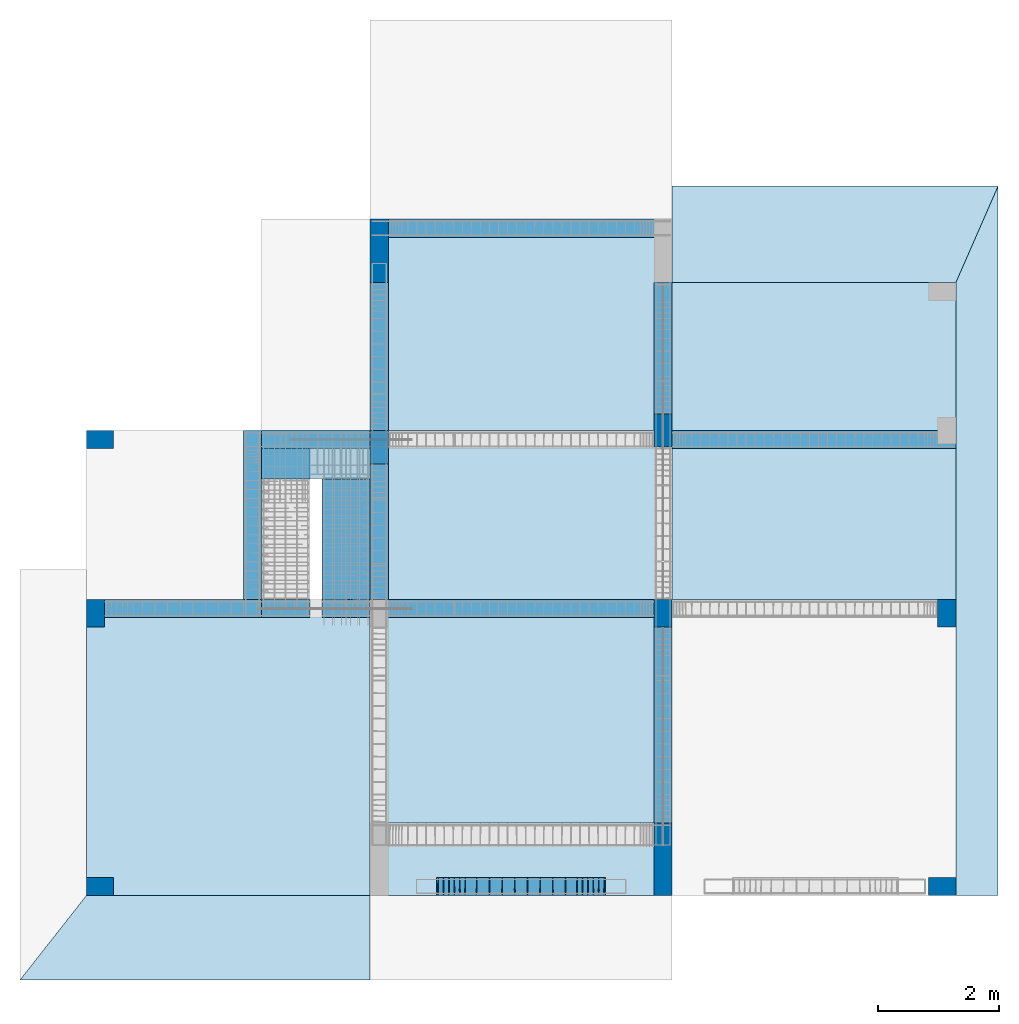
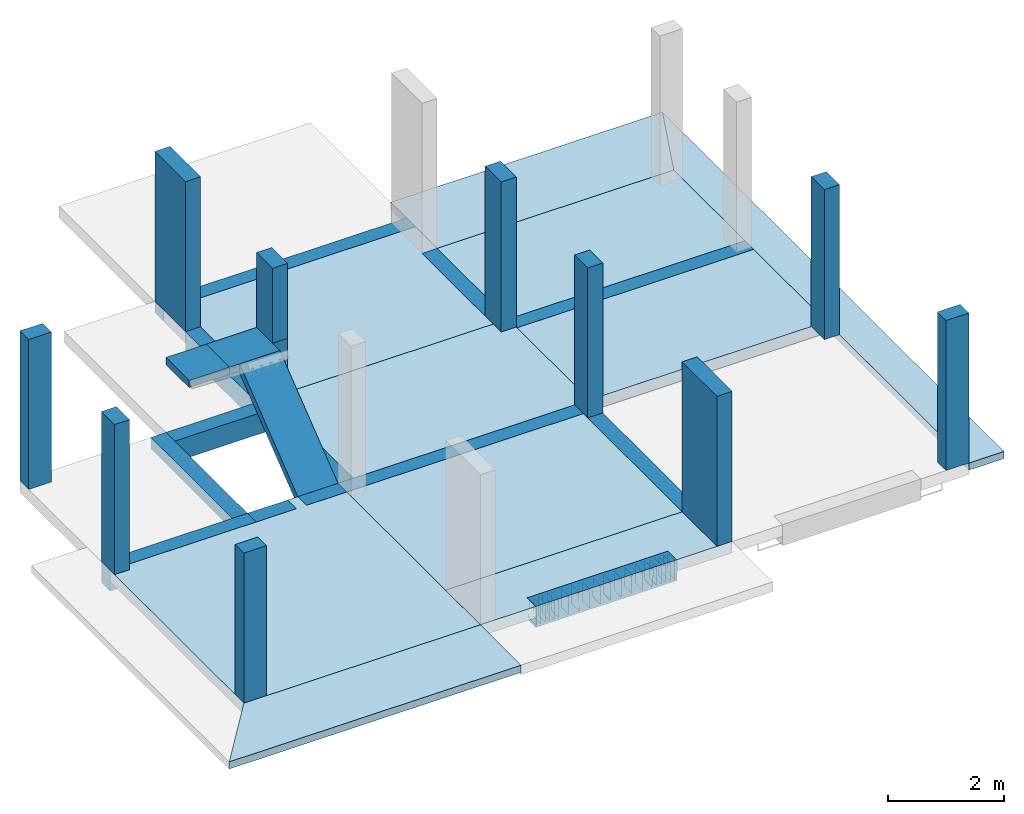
# One storey, part 1 of 5: 15 beams, 10 slabs, 9 columns, 3 walls, 1 reinforcing bar.
"""IFC4 building model written with IfcOpenShell, lengths in metres."""

from ifc_helpers import new_model, entity, si_unit, frame, frame_2d, origin_with_axes, origin_2d_with_axis, place, context, project, spatial, polyline, rectangle, outline, extrude, faceted_brep, source, transform, mapped, material, layer, layer_set, layer_usage, material_profile, profile_set, profile_usage, type_object, element, save


model = new_model("IFC4")

# Units and contexts
model_context = context("Model", 3, precision=1e-05, world=origin_with_axes())
ifc_project = project(units=[si_unit("LENGTHUNIT", "METRE"), si_unit("AREAUNIT", "SQUARE_METRE"), si_unit("VOLUMEUNIT", "CUBIC_METRE"), si_unit("MASSUNIT", "GRAM", prefix="KILO"), si_unit("TIMEUNIT", "SECOND"), si_unit("PLANEANGLEUNIT", "RADIAN"), si_unit("SOLIDANGLEUNIT", "STERADIAN"), si_unit("THERMODYNAMICTEMPERATUREUNIT", "DEGREE_CELSIUS")], contexts=[model_context])

# Site, building, storey
placement_1 = place(None, origin_with_axes())
site = spatial("IfcSite", under=ifc_project, at=placement_1, Name="Italia", CompositionType="ELEMENT")
building = spatial("IfcBuilding", under=site, at=placement_1, Name="Bifamiliare", CompositionType="ELEMENT")
storey_placement = place(None, frame((0.0, 0.0, 2.799999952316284), z_axis=(0.0, 0.0, 1.0), x_axis=(1.0, 0.0, 0.0)))
storey = spatial("IfcBuildingStorey", under=building, at=storey_placement, Name="Storey 1", CompositionType="ELEMENT", Elevation=2.799999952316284)

# Columns
ifc_material_1 = material(Name="Calcestruzzo", Category="Calcestruzzo")
ifc_material_profile = material_profile(ifc_material_1, rectangle(XDim=0.3, YDim=0.55, at=frame_2d((0.0, 0.0), x_axis=(0.0, 1.0))), Name="9 Pil 55x30")
ifc_profile_set = profile_set([ifc_material_profile])
ifc_profile_usage_1 = profile_usage(ifc_profile_set, cardinal=3)
column_type_1 = type_object("IfcColumnType", Name="9 Pil 55x30", PredefinedType="COLUMN", material=ifc_profile_usage_1)
placement_2 = place(placement_1, origin_with_axes())
column_1_placement = place(placement_2, origin_with_axes())
element("IfcColumn", 1, at=column_1_placement, inside=storey, type_object=column_type_1, Name="8", context=model_context, shape_type="SweptSolid", body=[
    extrude(rectangle(XDim=0.3, YDim=0.55, at=frame_2d((0.0, 0.0), x_axis=(0.0, 1.0))), frame((5.95, 8.825, 2.8), z_axis=(0.0, 0.0, 1.0), x_axis=(0.0, 1.0, 0.0)), (0.0, 0.0, 1.0), 1.575),
])
ifc_profile_usage_2 = profile_usage(ifc_profile_set, cardinal=8)
column_type_2 = type_object("IfcColumnType", Name="9 Pil 55x30", PredefinedType="COLUMN", material=ifc_profile_usage_2)
column_2_placement = place(placement_2, origin_with_axes())
element("IfcColumn", 2, at=column_2_placement, inside=storey, type_object=column_type_2, Name="9", context=model_context, shape_type="SweptSolid", body=[
    extrude(rectangle(XDim=0.3, YDim=0.55, at=frame_2d((0.0, 0.0), x_axis=(0.0, 1.0))), frame((10.65, 9.1, 2.8), z_axis=(0.0, 0.0, 1.0), x_axis=(0.0, 1.0, 0.0)), (0.0, 0.0, 1.0), 3.15),
])
ifc_profile_usage_3 = profile_usage(ifc_profile_set, cardinal=1)
column_type_3 = type_object("IfcColumnType", Name="8 Pil 30x45", PredefinedType="COLUMN", material=ifc_profile_usage_3)
column_3_placement = place(placement_2, origin_with_axes())
element("IfcColumn", 3, at=column_3_placement, inside=storey, type_object=column_type_3, Name="1", context=model_context, shape_type="SweptSolid", body=[
    extrude(rectangle(XDim=0.3, YDim=0.45, at=origin_2d_with_axis()), frame((1.325, 1.55, 2.8), z_axis=(0.0, 0.0, 1.0), x_axis=(0.0, 1.0, 0.0)), (0.0, 0.0, 1.0), 3.15),
])
ifc_profile_usage_4 = profile_usage(ifc_profile_set, cardinal=3)
column_type_4 = type_object("IfcColumnType", Name="8 Pil 30x45", PredefinedType="COLUMN", material=ifc_profile_usage_4)
column_4_placement = place(placement_2, origin_with_axes())
element("IfcColumn", 4, at=column_4_placement, inside=storey, type_object=column_type_4, Name="7", context=model_context, shape_type="SweptSolid", body=[
    extrude(rectangle(XDim=0.3, YDim=0.45, at=origin_2d_with_axis()), frame((1.325, 8.95, 2.8), z_axis=(0.0, 0.0, 1.0), x_axis=(0.0, 1.0, 0.0)), (0.0, 0.0, 1.0), 3.15),
])
ifc_profile_usage_5 = profile_usage(ifc_profile_set, cardinal=7)
column_type_5 = type_object("IfcColumnType", Name="8 Pil 30x45", PredefinedType="COLUMN", material=ifc_profile_usage_5)
column_5_placement = place(placement_2, origin_with_axes())
element("IfcColumn", 5, at=column_5_placement, inside=storey, type_object=column_type_5, Name="2", context=model_context, shape_type="SweptSolid", body=[
    extrude(rectangle(XDim=0.3, YDim=0.45, at=origin_2d_with_axis()), frame((15.275, 1.55, 2.8), z_axis=(0.0, 0.0, 1.0), x_axis=(0.0, 1.0, 0.0)), (0.0, 0.0, 1.0), 3.15),
])
ifc_profile_usage_6 = profile_usage(ifc_profile_set, cardinal=3)
column_type_6 = type_object("IfcColumnType", Name="7 Pil 45x30", PredefinedType="COLUMN", material=ifc_profile_usage_6)
column_6_placement = place(placement_2, origin_with_axes())
element("IfcColumn", 6, at=column_6_placement, inside=storey, type_object=column_type_6, Name="3", context=model_context, shape_type="SweptSolid", body=[
    extrude(rectangle(XDim=0.3, YDim=0.45, at=frame_2d((0.0, 0.0), x_axis=(0.0, 1.0))), frame((1.25, 6.075, 2.8), z_axis=(0.0, 0.0, 1.0), x_axis=(0.0, 1.0, 0.0)), (0.0, 0.0, 1.0), 3.15),
])
ifc_profile_usage_7 = profile_usage(ifc_profile_set, cardinal=9)
column_type_7 = type_object("IfcColumnType", Name="7 Pil 45x30", PredefinedType="COLUMN", material=ifc_profile_usage_7)
column_7_placement = place(placement_2, origin_with_axes())
element("IfcColumn", 7, at=column_7_placement, inside=storey, type_object=column_type_7, Name="6", context=model_context, shape_type="SweptSolid", body=[
    extrude(rectangle(XDim=0.3, YDim=0.45, at=frame_2d((0.0, 0.0), x_axis=(0.0, 1.0))), frame((15.35, 6.075, 2.8), z_axis=(0.0, 0.0, 1.0), x_axis=(0.0, 1.0, 0.0)), (0.0, 0.0, 1.0), 3.15),
])
ifc_profile_usage_8 = profile_usage(ifc_profile_set, cardinal=9)
column_type_8 = type_object("IfcColumnType", Name="7 Pil 45x30", PredefinedType="COLUMN", material=ifc_profile_usage_8)
column_8_placement = place(placement_2, origin_with_axes())
element("IfcColumn", 8, at=column_8_placement, inside=storey, type_object=column_type_8, Name="5", context=model_context, shape_type="SweptSolid", body=[
    extrude(rectangle(XDim=0.3, YDim=0.45, at=frame_2d((0.0, 0.0), x_axis=(0.0, 1.0))), frame((10.65, 6.075, 2.8), z_axis=(0.0, 0.0, 1.0), x_axis=(0.0, 1.0, 0.0)), (0.0, 0.0, 1.0), 3.15),
])
ifc_profile_usage_9 = profile_usage(ifc_profile_set, cardinal=3)
column_type_9 = type_object("IfcColumnType", Name="9 Pil 55x30", PredefinedType="COLUMN", material=ifc_profile_usage_9)
column_9_placement = place(placement_2, origin_with_axes())
element("IfcColumn", 9, at=column_9_placement, inside=storey, type_object=column_type_9, Name="8", context=model_context, shape_type="SweptSolid", body=[
    extrude(rectangle(XDim=0.3, YDim=0.55, at=frame_2d((0.0, 0.0), x_axis=(0.0, 1.0))), frame((5.95, 8.825, 4.375), z_axis=(0.0, 0.0, 1.0), x_axis=(0.0, 1.0, 0.0)), (0.0, 0.0, 1.0), 1.575),
])

# Beams
ifc_profile_usage_10 = profile_usage(ifc_profile_set, cardinal=1)
beam_type_1 = type_object("IfcBeamType", Name="3 Tr 30x44", PredefinedType="BEAM", material=ifc_profile_usage_10)
beam_1_placement = place(placement_2, origin_with_axes())
element("IfcBeam", 10, at=beam_1_placement, inside=storey, type_object=beam_type_1, Name="122", context=model_context, shape_type="SweptSolid", body=[
    extrude(rectangle(XDim=0.3, YDim=0.44, at=origin_2d_with_axis()), frame((5.95, 11.55, 2.58), z_axis=(0.0, -1.0, 0.0), x_axis=(1.0, 0.0, 0.0)), (0.0, 0.0, 1.0), 2.45),
])
ifc_profile_usage_11 = profile_usage(ifc_profile_set, cardinal=1)
beam_type_2 = type_object("IfcBeamType", Name="3 Tr 30x44", PredefinedType="BEAM", material=ifc_profile_usage_11)
beam_2_placement = place(placement_2, origin_with_axes())
element("IfcBeam", 11, at=beam_2_placement, inside=storey, type_object=beam_type_2, Name="101", context=model_context, shape_type="SweptSolid", body=[
    extrude(rectangle(XDim=0.3, YDim=0.44, at=origin_2d_with_axis()), frame((6.9, 1.55, 2.58), z_axis=(1.0, 0.0, 0.0), x_axis=(0.0, 1.0, 0.0)), (0.0, 0.0, 1.0), 2.8),
])
ifc_profile_usage_12 = profile_usage(ifc_profile_set, cardinal=1)
beam_type_3 = type_object("IfcBeamType", Name="3 Tr 30x44", PredefinedType="BEAM", material=ifc_profile_usage_12)
beam_3_placement = place(placement_2, origin_with_axes())
element("IfcBeam", 12, at=beam_3_placement, inside=storey, type_object=beam_type_3, Name="110", context=model_context, shape_type="SweptSolid", body=[
    extrude(rectangle(XDim=0.3, YDim=0.44, at=origin_2d_with_axis()), frame((5.8, 8.95, 2.58), z_axis=(-1.0, 0.0, 0.0), x_axis=(0.0, -1.0, 0.0)), (0.0, 0.0, 1.0), 1.8),
])
ifc_profile_usage_13 = profile_usage(ifc_profile_set, cardinal=1)
beam_type_4 = type_object("IfcBeamType", Name="3 Tr 30x44", PredefinedType="BEAM", material=ifc_profile_usage_13)
beam_4_placement = place(placement_2, origin_with_axes())
element("IfcBeam", 13, at=beam_4_placement, inside=storey, type_object=beam_type_4, Name="123", context=model_context, shape_type="SweptSolid", body=[
    extrude(rectangle(XDim=0.3, YDim=0.44, at=origin_2d_with_axis()), frame((10.65, 2.6, 2.58), z_axis=(0.0, 1.0, 0.0), x_axis=(-1.0, 0.0, 0.0)), (0.0, 0.0, 1.0), 3.7),
])
ifc_profile_usage_14 = profile_usage(ifc_profile_set, cardinal=1)
beam_type_5 = type_object("IfcBeamType", Name="3 Tr 30x44", PredefinedType="BEAM", material=ifc_profile_usage_14)
beam_5_placement = place(placement_2, origin_with_axes())
element("IfcBeam", 14, at=beam_5_placement, inside=storey, type_object=beam_type_5, Name="123", context=model_context, shape_type="SweptSolid", body=[
    extrude(rectangle(XDim=0.3, YDim=0.44, at=origin_2d_with_axis()), frame((10.65, 9.1, 2.58), z_axis=(0.0, 1.0, 0.0), x_axis=(-1.0, 0.0, 0.0)), (0.0, 0.0, 1.0), 2.45),
])
ifc_profile_usage_15 = profile_usage(ifc_profile_set, cardinal=1)
beam_type_6 = type_object("IfcBeamType", Name="3 Tr 30x44", PredefinedType="BEAM", material=ifc_profile_usage_15)
beam_6_placement = place(placement_2, origin_with_axes())
element("IfcBeam", 15, at=beam_6_placement, inside=storey, type_object=beam_type_6, Name="122", context=model_context, shape_type="SweptSolid", body=[
    extrude(rectangle(XDim=0.3, YDim=0.44, at=origin_2d_with_axis()), frame((5.95, 9.1, 2.58), z_axis=(0.0, -1.0, 0.0), x_axis=(1.0, 0.0, 0.0)), (0.0, 0.0, 1.0), 2.8),
])
ifc_profile_usage_16 = profile_usage(ifc_profile_set, cardinal=1)
beam_type_7 = type_object("IfcBeamType", Name="3 Tr 30x44", PredefinedType="BEAM", material=ifc_profile_usage_16)
beam_7_placement = place(placement_2, origin_with_axes())
element("IfcBeam", 16, at=beam_7_placement, inside=storey, type_object=beam_type_7, Name="106", context=model_context, shape_type="SweptSolid", body=[
    extrude(rectangle(XDim=0.3, YDim=0.44, at=origin_2d_with_axis()), frame((4.0, 6.15, 2.58), z_axis=(-1.0, 0.0, 0.0), x_axis=(0.0, -1.0, 0.0)), (0.0, 0.0, 1.0), 2.9),
])
ifc_profile_usage_17 = profile_usage(ifc_profile_set, cardinal=1)
beam_type_8 = type_object("IfcBeamType", Name="1 Tr 30x24", PredefinedType="BEAM", material=ifc_profile_usage_17)
beam_8_placement = place(placement_2, origin_with_axes())
element("IfcBeam", 17, at=beam_8_placement, inside=storey, type_object=beam_type_8, Name="115", context=model_context, shape_type="SweptSolid", body=[
    extrude(rectangle(XDim=0.24, YDim=0.3, at=frame_2d((0.0, 0.0), x_axis=(0.0, 1.0))), frame((10.8, 12.45, 2.68), z_axis=(-1.0, 0.0, 0.0), x_axis=(0.0, -1.0, 0.0)), (0.0, 0.0, 1.0), 5.0),
])
ifc_profile_usage_18 = profile_usage(ifc_profile_set, cardinal=1)
beam_type_9 = type_object("IfcBeamType", Name="1 Tr 30x24", PredefinedType="BEAM", material=ifc_profile_usage_18)
beam_9_placement = place(placement_2, origin_with_axes())
element("IfcBeam", 18, at=beam_9_placement, inside=storey, type_object=beam_type_9, Name="106", context=model_context, shape_type="SweptSolid", body=[
    extrude(rectangle(XDim=0.24, YDim=0.3, at=frame_2d((0.0, 0.0), x_axis=(0.0, 1.0))), frame((10.8, 6.15, 2.68), z_axis=(-1.0, 0.0, 0.0), x_axis=(0.0, -1.0, 0.0)), (0.0, 0.0, 1.0), 5.0),
])
ifc_profile_usage_19 = profile_usage(ifc_profile_set, cardinal=1)
beam_type_10 = type_object("IfcBeamType", Name="1 Tr 30x24", PredefinedType="BEAM", material=ifc_profile_usage_19)
beam_10_placement = place(placement_2, origin_with_axes())
element("IfcBeam", 19, at=beam_10_placement, inside=storey, type_object=beam_type_10, Name="110", context=model_context, shape_type="SweptSolid", body=[
    extrude(rectangle(XDim=0.24, YDim=0.3, at=frame_2d((0.0, 0.0), x_axis=(0.0, 1.0))), frame((15.5, 8.95, 2.68), z_axis=(-1.0, 0.0, 0.0), x_axis=(0.0, -1.0, 0.0)), (0.0, 0.0, 1.0), 4.7),
])
ifc_profile_usage_20 = profile_usage(ifc_profile_set, cardinal=1)
beam_type_11 = type_object("IfcBeamType", Name="1 Tr 30x24", PredefinedType="BEAM", material=ifc_profile_usage_20)
beam_11_placement = place(placement_2, origin_with_axes())
element("IfcBeam", 20, at=beam_11_placement, inside=storey, type_object=beam_type_11, Name="120", context=model_context, shape_type="SweptSolid", body=[
    extrude(rectangle(XDim=0.24, YDim=0.3, at=frame_2d((0.0, 0.0), x_axis=(0.0, 1.0))), frame((3.85, 6.3, 2.68), z_axis=(0.0, 1.0, 0.0), x_axis=(-1.0, 0.0, 0.0)), (0.0, 0.0, 1.0), 2.8),
])
ifc_profile_usage_21 = profile_usage(ifc_profile_set, cardinal=1)
beam_type_12 = type_object("IfcBeamType", Name="10 Scala", PredefinedType="BEAM", material=ifc_profile_usage_21)
beam_12_placement = place(placement_2, origin_with_axes())
element("IfcBeam", 21, at=beam_12_placement, inside=storey, type_object=beam_type_12, Name="604", context=model_context, shape_type="SweptSolid", body=[
    extrude(rectangle(XDim=0.15, YDim=0.8, at=frame_2d((0.0, 0.0), x_axis=(0.0, 1.0))), frame((4.4, 9.1, 4.3), z_axis=(0.0, -1.0, 0.0), x_axis=(1.0, 0.0, 0.0)), (0.0, 0.0, 1.0), 0.8),
])
ifc_profile_usage_22 = profile_usage(ifc_profile_set, cardinal=1)
beam_type_13 = type_object("IfcBeamType", Name="3 Tr 30x44", PredefinedType="BEAM", material=ifc_profile_usage_22)
beam_13_placement = place(placement_2, origin_with_axes())
element("IfcBeam", 22, at=beam_13_placement, inside=storey, type_object=beam_type_13, Name="106", context=model_context, shape_type="SweptSolid", body=[
    extrude(rectangle(XDim=0.3, YDim=0.44, at=origin_2d_with_axis()), frame((5.8, 6.15, 2.58), z_axis=(-1.0, 0.0, 0.0), x_axis=(0.0, -1.0, 0.0)), (0.0, 0.0, 1.0), 0.8),
])
ifc_profile_usage_23 = profile_usage(ifc_profile_set, cardinal=1)
beam_type_14 = type_object("IfcBeamType", Name="3 Tr 30x44", PredefinedType="BEAM", material=ifc_profile_usage_23)
beam_14_placement = place(placement_2, origin_with_axes())
element("IfcBeam", 23, at=beam_14_placement, inside=storey, type_object=beam_type_14, Name="106", context=model_context, shape_type="SweptSolid", body=[
    extrude(rectangle(XDim=0.3, YDim=0.44, at=origin_2d_with_axis()), frame((4.8, 6.15, 2.58), z_axis=(-1.0, 0.0, 0.0), x_axis=(0.0, -1.0, 0.0)), (0.0, 0.0, 1.0), 0.8),
])
ifc_profile_usage_24 = profile_usage(ifc_profile_set, cardinal=1)
beam_type_15 = type_object("IfcBeamType", Name="10 Scala", PredefinedType="BEAM", material=ifc_profile_usage_24)
beam_15_placement = place(placement_2, origin_with_axes())
element("IfcBeam", 24, at=beam_15_placement, inside=storey, type_object=beam_type_15, Name="603", context=model_context, shape_type="SweptSolid", body=[
    extrude(rectangle(XDim=0.15, YDim=0.8, at=frame_2d((0.0, 0.0), x_axis=(0.0, 1.0))), frame((5.4, 6.3464, 2.74108), z_axis=(0.0, 0.785636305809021, 0.618688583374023), x_axis=(-1.0, 0.0, 0.0)), (0.0, 0.0, 1.0), 2.54571),
])

# Slabs
ifc_material_2 = material(Name="Concrete", Category="Concrete")
slab_type_1 = type_object("IfcSlabType", Name="1 Solaio calpestio", PredefinedType="FLOOR", material=ifc_material_2)
slab_1_placement = place(placement_2, origin_with_axes())
element("IfcSlab", 25, at=slab_1_placement, inside=storey, type_object=slab_type_1, Name="103", context=model_context, shape_type="SweptSolid", body=[
    extrude(outline(polyline([(0.0, 0.0), (0.35, 0.0), (0.7, 0.0), (1.05, 0.0), (1.05, 5.0), (0.7, 5.0), (0.35, 5.0), (0.0, 5.0), (-2.45, 5.0), (-2.45, 0.0), (0.0, 0.0)])), frame((5.8, 11.55, 2.8), z_axis=(0.0, 0.0, -1.0), x_axis=(0.0, 1.0, 0.0)), (0.0, 0.0, 1.0), 0.24),
])
ifc_material_3 = material(Name="Concrete", Category="Concrete")
slab_type_2 = type_object("IfcSlabType", Name="1 Solaio calpestio", PredefinedType="FLOOR", material=ifc_material_3)
slab_2_placement = place(placement_2, origin_with_axes())
element("IfcSlab", 26, at=slab_2_placement, inside=storey, type_object=slab_type_2, Name="104", context=model_context, shape_type="SweptSolid", body=[
    extrude(outline(polyline([(0.0, 0.0), (0.0, 5.0), (-2.8, 5.0), (-2.8, 0.0), (0.0, 0.0)])), frame((5.8, 9.1, 2.8), z_axis=(0.0, 0.0, -1.0), x_axis=(0.0, 1.0, 0.0)), (0.0, 0.0, 1.0), 0.24),
])
ifc_material_4 = material(Name="Concrete", Category="Concrete")
slab_type_3 = type_object("IfcSlabType", Name="1 Solaio calpestio", PredefinedType="FLOOR", material=ifc_material_4)
slab_3_placement = place(placement_2, origin_with_axes())
element("IfcSlab", 27, at=slab_3_placement, inside=storey, type_object=slab_type_3, Name="105", context=model_context, shape_type="SweptSolid", body=[
    extrude(outline(polyline([(0.0, 0.0), (0.0, 0.47), (0.0, 0.94), (0.0, 1.41), (0.0, 1.88), (0.0, 2.35), (0.0, 2.82), (0.0, 3.29), (0.0, 3.76), (0.0, 4.23), (0.0, 4.7), (-0.49, 4.7), (-0.98, 4.7), (-1.47, 4.7), (-1.96, 4.7), (-2.45, 4.7), (-2.45, 0.0), (0.0, 0.0)])), frame((10.8, 11.55, 2.8), z_axis=(0.0, 0.0, -1.0), x_axis=(0.0, 1.0, 0.0)), (0.0, 0.0, 1.0), 0.24),
])
ifc_material_5 = material(Name="Concrete", Category="Concrete")
slab_type_4 = type_object("IfcSlabType", Name="1 Solaio calpestio", PredefinedType="FLOOR", material=ifc_material_5)
slab_4_placement = place(placement_2, origin_with_axes())
element("IfcSlab", 28, at=slab_4_placement, inside=storey, type_object=slab_type_4, Name="106", context=model_context, shape_type="SweptSolid", body=[
    extrude(outline(polyline([(0.0, 0.0), (0.0, 4.7), (-0.466667, 4.7), (-0.933333, 4.7), (-1.4, 4.7), (-1.86667, 4.7), (-2.33333, 4.7), (-2.8, 4.7), (-2.8, 0.0), (0.0, 0.0)])), frame((10.8, 9.1, 2.8), z_axis=(0.0, 0.0, -1.0), x_axis=(0.0, 1.0, 0.0)), (0.0, 0.0, 1.0), 0.24),
])
ifc_material_6 = material(Name="Concrete", Category="Concrete")
slab_type_5 = type_object("IfcSlabType", Name="1 Solaio calpestio", PredefinedType="FLOOR", material=ifc_material_6)
slab_5_placement = place(placement_2, origin_with_axes())
element("IfcSlab", 29, at=slab_5_placement, inside=storey, type_object=slab_type_5, Name="108", context=model_context, shape_type="SweptSolid", body=[
    extrude(outline(polyline([(0.0, 0.0), (0.0, 5.0), (-3.7, 5.0), (-3.7, 0.0), (0.0, 0.0)])), frame((5.8, 6.3, 2.8), z_axis=(0.0, 0.0, -1.0), x_axis=(0.0, 1.0, 0.0)), (0.0, 0.0, 1.0), 0.24),
])
ifc_material_7 = material(Name="Concrete", Category="Concrete")
slab_type_6 = type_object("IfcSlabType", Name="1 Solaio calpestio", PredefinedType="FLOOR", material=ifc_material_7)
slab_6_placement = place(placement_2, origin_with_axes())
element("IfcSlab", 30, at=slab_6_placement, inside=storey, type_object=slab_type_6, Name="109", context=model_context, shape_type="SweptSolid", body=[
    extrude(outline(polyline([(0.0, 0.0), (0.0, 0.366667), (0.0, 0.733333), (0.0, 1.1), (0.0, 3.9), (0.0, 4.26667), (0.0, 4.63333), (0.0, 5.0), (0.4, 5.0), (0.8, 5.0), (1.2, 5.0), (1.2, 0.0), (0.8, 0.0), (0.4, 0.0), (0.0, 0.0)])), frame((5.8, 1.4, 2.8), z_axis=(0.0, 0.0, -1.0), x_axis=(0.0, 1.0, 0.0)), (0.0, 0.0, 1.0), 0.24),
])
ifc_material_8 = material(Name="Concrete", Category="Concrete")
slab_type_7 = type_object("IfcSlabType", Name="1 Solaio calpestio", PredefinedType="FLOOR", material=ifc_material_8)
slab_7_placement = place(placement_2, origin_with_axes())
element("IfcSlab", 31, at=slab_7_placement, inside=storey, type_object=slab_type_7, Name="110", context=model_context, shape_type="SweptSolid", body=[
    extrude(outline(polyline([(0.0, 0.0), (0.0, 0.47), (0.0, 0.94), (0.0, 1.41), (0.0, 1.88), (0.0, 2.35), (0.0, 2.82), (0.0, 3.29), (0.0, 3.76), (0.0, 4.23), (0.0, 4.7), (0.4, 4.7), (0.8, 4.7), (1.2, 4.7), (4.9, 4.7), (4.9, 4.3), (4.9, 3.9), (4.9, 3.7), (4.9, 3.3), (4.9, 2.9), (4.9, 0.0), (4.41, 0.0), (3.92, 0.0), (3.43, 0.0), (2.94, 0.0), (2.45, 0.0), (1.96, 0.0), (1.47, 0.0), (0.98, 0.0), (0.49, 0.0), (0.0, 0.0)])), frame((1.1, 1.4, 2.8), z_axis=(0.0, 0.0, -1.0), x_axis=(0.0, 1.0, 0.0)), (0.0, 0.0, 1.0), 0.24),
])
ifc_material_9 = material(Name="Concrete", Category="Concrete")
slab_type_8 = type_object("IfcSlabType", Name="5 Marciapiedi", PredefinedType="FLOOR", material=ifc_material_9)
slab_8_placement = place(placement_2, origin_with_axes())
element("IfcSlab", 32, at=slab_8_placement, inside=storey, type_object=slab_type_8, Name="113", context=model_context, shape_type="SweptSolid", body=[
    extrude(outline(polyline([(0.0, 0.0), (0.0, 5.8), (1.4, 5.8), (1.4, 5.33), (1.4, 4.86), (1.4, 4.39), (1.4, 3.92), (1.4, 3.45), (1.4, 2.98), (1.4, 2.51), (1.4, 2.04), (1.4, 1.57), (1.4, 1.1), (0.0, 0.0)])), frame((0.0, 0.0, 2.8), z_axis=(0.0, 0.0, -1.0), x_axis=(0.0, 1.0, 0.0)), (0.0, 0.0, 1.0), 0.15),
])
ifc_material_10 = material(Name="Concrete", Category="Concrete")
slab_type_9 = type_object("IfcSlabType", Name="5 Marciapiedi", PredefinedType="FLOOR", material=ifc_material_10)
slab_9_placement = place(placement_2, origin_with_axes())
element("IfcSlab", 33, at=slab_9_placement, inside=storey, type_object=slab_type_9, Name="114", context=model_context, shape_type="SweptSolid", body=[
    extrude(outline(polyline([(0.0, 0.0), (0.349999, 0.0), (0.7, 0.0), (0.974999, 0.0), (1.25, 0.0), (1.25, 5.4), (-0.35, 4.7), (-0.35, 4.23), (-0.35, 3.76), (-0.35, 3.29), (-0.35, 2.82), (-0.35, 2.35), (-0.35, 1.88), (-0.35, 1.41), (-0.35, 0.94), (-0.35, 0.47), (-0.35, 0.0), (0.0, 0.0)])), frame((10.8, 11.9, 2.8), z_axis=(0.0, 0.0, -1.0), x_axis=(0.0, 1.0, 0.0)), (0.0, 0.0, 1.0), 0.15),
])
ifc_material_11 = material(Name="Concrete", Category="Concrete")
slab_type_10 = type_object("IfcSlabType", Name="5 Marciapiedi", PredefinedType="FLOOR", material=ifc_material_11)
slab_10_placement = place(placement_2, origin_with_axes())
element("IfcSlab", 34, at=slab_10_placement, inside=storey, type_object=slab_type_10, Name="115", context=model_context, shape_type="SweptSolid", body=[
    extrude(outline(polyline([(0.0, 0.0), (0.49, 0.0), (0.98, 0.0), (1.47, 0.0), (1.96, 0.0), (2.45, 0.0), (2.94, 0.0), (3.43, 0.0), (3.92, 0.0), (4.41, 0.0), (4.87667, 0.0), (5.34333, 0.0), (5.81, 0.0), (6.27667, 0.0), (6.74333, 0.0), (7.21, 0.0), (7.7, 0.0), (8.19, 0.0), (8.68, 0.0), (9.17, 0.0), (9.66, 0.0), (11.26, 0.700001), (-0.49, 0.700001), (-0.49, 0.0), (0.0, 0.0)])), frame((15.5, 1.89, 2.8), z_axis=(0.0, 0.0, -1.0), x_axis=(0.0, 1.0, 0.0)), (0.0, 0.0, 1.0), 0.15),
])

# Walls
ifc_material_12 = material(Name="Calcestruzzo", Category="Calcestruzzo")
ifc_layer_1 = layer(ifc_material_12, 0.15)
ifc_layer_set_1 = layer_set([ifc_layer_1])
ifc_layer_usage_1 = layer_usage(ifc_layer_set_1, "AXIS2", "POSITIVE", -0.15)
wall_type_1 = type_object("IfcWallType", Name="2 Scala", PredefinedType="STANDARD")
wall_1_placement = place(placement_2, origin_with_axes())
element("IfcWall", 35, at=wall_1_placement, inside=storey, type_object=wall_type_1, material=ifc_layer_usage_1, context=model_context, shape_type="Brep", body=[
    faceted_brep([(4.0, 9.1, 4.375), (4.0, 9.1, 4.225), (5.8, 9.1, 4.225), (5.8, 9.1, 4.375), (5.8, 9.1, 4.375), (5.8, 9.1, 4.225), (5.8, 8.3, 4.225), (5.8, 8.3, 4.375), (5.8, 8.3, 4.375), (5.8, 8.3, 4.225), (4.0, 8.3, 4.225), (4.0, 8.3, 4.375), (4.0, 8.3, 4.375), (4.0, 8.3, 4.225), (4.0, 9.1, 4.225), (4.0, 9.1, 4.375), (4.0, 9.1, 4.225), (5.8, 9.1, 4.225), (5.8, 8.3, 4.225), (4.0, 8.3, 4.225), (4.0, 9.1, 4.375), (5.8, 9.1, 4.375), (5.8, 8.3, 4.375), (4.0, 8.3, 4.375)], [[[0, 1, 2, 3]], [[4, 5, 6, 7]], [[8, 9, 10, 11]], [[12, 13, 14, 15]], [[16, 17, 18, 19]], [[20, 21, 22, 23]]]),
])
ifc_material_13 = material(Name="Calcestruzzo", Category="Calcestruzzo")
ifc_layer_2 = layer(ifc_material_13, 0.3)
ifc_layer_set_2 = layer_set([ifc_layer_2])
ifc_layer_usage_2 = layer_usage(ifc_layer_set_2, "AXIS2", "POSITIVE", -0.3)
wall_type_2 = type_object("IfcWallType", Name="4 Nuclei", PredefinedType="STANDARD")
wall_2_placement = place(placement_2, origin_with_axes())
element("IfcWallStandardCase", 36, at=wall_2_placement, inside=storey, type_object=wall_type_2, material=ifc_layer_usage_2, Name="210", context=model_context, shape_type="SweptSolid", body=[
    extrude(rectangle(XDim=1.2, YDim=0.3, at=origin_2d_with_axis()), frame((10.65, 2.0, 2.8), z_axis=(0.0, 0.0, 1.0), x_axis=(0.0, 1.0, 0.0)), (0.0, 0.0, 1.0), 3.15),
])
ifc_material_14 = material(Name="Calcestruzzo", Category="Calcestruzzo")
ifc_layer_3 = layer(ifc_material_14, 0.3)
ifc_layer_set_3 = layer_set([ifc_layer_3])
ifc_layer_usage_3 = layer_usage(ifc_layer_set_3, "AXIS2", "POSITIVE", -0.3)
wall_type_3 = type_object("IfcWallType", Name="4 Nuclei", PredefinedType="STANDARD")
wall_3_placement = place(placement_2, origin_with_axes())
element("IfcWallStandardCase", 37, at=wall_3_placement, inside=storey, type_object=wall_type_3, material=ifc_layer_usage_3, Name="208", context=model_context, shape_type="SweptSolid", body=[
    extrude(rectangle(XDim=1.05, YDim=0.3, at=origin_2d_with_axis()), frame((5.95, 12.075, 2.8), z_axis=(0.0, 0.0, 1.0), x_axis=(0.0, 1.0, 0.0)), (0.0, 0.0, 1.0), 3.15),
])

# Reinforcing bar
shared_shape = source(origin_with_axes(), model_context, "Body", "AdvancedSweptSolid", [
    entity("IfcSweptDiskSolid", entity("IfcIndexedPolyCurve", entity("IfcCartesianPointList3D", [[6.928, 1.49471, 2.68429], [6.92741, 1.42693, 2.75207], [6.92736, 1.424, 2.75914], [6.92732, 1.424, 2.766], [6.9273, 1.42476, 2.76983], [6.92727, 1.42693, 2.77307], [6.92725, 1.43017, 2.77524], [6.92722, 1.434, 2.776], [6.9258, 1.666, 2.776], [6.92577, 1.66983, 2.77524], [6.92575, 1.67307, 2.77307], [6.92572, 1.67524, 2.76983], [6.9257, 1.676, 2.766], [6.92341, 1.676, 2.394], [6.92339, 1.67524, 2.39017], [6.92336, 1.67307, 2.38693], [6.92334, 1.66983, 2.38476], [6.92332, 1.666, 2.384], [6.92189, 1.434, 2.384], [6.92186, 1.43017, 2.38476], [6.92184, 1.42693, 2.38693], [6.92181, 1.42476, 2.39017], [6.92179, 1.424, 2.394], [6.9195, 1.424, 2.766], [6.91948, 1.42476, 2.76983], [6.91945, 1.42693, 2.77307], [6.91943, 1.43017, 2.77524], [6.91941, 1.434, 2.776], [6.91936, 1.44086, 2.776], [6.91932, 1.44793, 2.77307], [6.91873, 1.51571, 2.70529]]), [entity("IfcLineIndex", [1, 2]), entity("IfcLineIndex", [2, 3]), entity("IfcLineIndex", [3, 4]), entity("IfcLineIndex", [4, 5]), entity("IfcLineIndex", [5, 6]), entity("IfcLineIndex", [6, 7]), entity("IfcLineIndex", [7, 8]), entity("IfcLineIndex", [8, 9]), entity("IfcLineIndex", [9, 10]), entity("IfcLineIndex", [10, 11]), entity("IfcLineIndex", [11, 12]), entity("IfcLineIndex", [12, 13]), entity("IfcLineIndex", [13, 14]), entity("IfcLineIndex", [14, 15]), entity("IfcLineIndex", [15, 16]), entity("IfcLineIndex", [16, 17]), entity("IfcLineIndex", [17, 18]), entity("IfcLineIndex", [18, 19]), entity("IfcLineIndex", [19, 20]), entity("IfcLineIndex", [20, 21]), entity("IfcLineIndex", [21, 22]), entity("IfcLineIndex", [22, 23]), entity("IfcLineIndex", [23, 24]), entity("IfcLineIndex", [24, 25]), entity("IfcLineIndex", [25, 26]), entity("IfcLineIndex", [26, 27]), entity("IfcLineIndex", [27, 28]), entity("IfcLineIndex", [28, 29]), entity("IfcLineIndex", [29, 30]), entity("IfcLineIndex", [30, 31])], False), 0.004),
])
reinforcing_bar_placement = place(placement_2, origin_with_axes())
element("IfcReinforcingBar", 38, at=reinforcing_bar_placement, inside=storey, BarLength=1.50681, CrossSectionArea=5.0265e-05, NominalDiameter=0.008, context=model_context, shape_type="MappedRepresentation", body=[
    mapped(shared_shape, transform((0.641, 0.0, 0.0), x_axis=(1.0, 0.0, 0.0), y_axis=(0.0, 1.0, 0.0), z_axis=(0.0, 0.0, 1.0), scale=1.0)),
    mapped(shared_shape, transform((0.45, 0.0, 0.0), x_axis=(1.0, 0.0, 0.0), y_axis=(0.0, 1.0, 0.0), z_axis=(0.0, 0.0, 1.0), scale=1.0)),
    mapped(shared_shape, transform((1.061, 0.0, 0.0), x_axis=(1.0, 0.0, 0.0), y_axis=(0.0, 1.0, 0.0), z_axis=(0.0, 0.0, 1.0), scale=1.0)),
    mapped(shared_shape, transform((0.851, 0.0, 0.0), x_axis=(1.0, 0.0, 0.0), y_axis=(0.0, 1.0, 0.0), z_axis=(0.0, 0.0, 1.0), scale=1.0)),
    mapped(shared_shape, transform((0.0, 0.0, 0.0), x_axis=(1.0, 0.0, 0.0), y_axis=(0.0, 1.0, 0.0), z_axis=(0.0, 0.0, 1.0), scale=1.0)),
    mapped(shared_shape, transform((1.27154, -0.000967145, -0.000864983), x_axis=(1.0, 0.000139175, 0.000125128), y_axis=(-0.000139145, 1.0, 0.0), z_axis=(-0.000125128, 0.0, 1.0), scale=1.0)),
    mapped(shared_shape, transform((0.18, 0.0, 0.0), x_axis=(1.0, 0.0, 0.0), y_axis=(0.0, 1.0, 0.0), z_axis=(0.0, 0.0, 1.0), scale=1.0)),
    mapped(shared_shape, transform((0.0900002, 0.0, 0.0), x_axis=(1.0, 0.0, 0.0), y_axis=(0.0, 1.0, 0.0), z_axis=(0.0, 0.0, 1.0), scale=1.0)),
    mapped(shared_shape, transform((0.36, 0.0, 0.0), x_axis=(1.0, 0.0, 0.0), y_axis=(0.0, 1.0, 0.0), z_axis=(0.0, 0.0, 1.0), scale=1.0)),
    mapped(shared_shape, transform((0.27, 0.0, 0.0), x_axis=(1.0, 0.0, 0.0), y_axis=(0.0, 1.0, 0.0), z_axis=(0.0, 0.0, 1.0), scale=1.0)),
    mapped(shared_shape, transform((2.48254, -0.000967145, -0.000864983), x_axis=(1.0, 0.000139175, 0.000125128), y_axis=(-0.000139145, 1.0, 0.0), z_axis=(-0.000125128, 0.0, 1.0), scale=1.0)),
    mapped(shared_shape, transform((2.39254, -0.000967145, -0.000864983), x_axis=(1.0, 0.000139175, 0.000125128), y_axis=(-0.000139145, 1.0, 0.0), z_axis=(-0.000125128, 0.0, 1.0), scale=1.0)),
    mapped(shared_shape, transform((2.66254, -0.000967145, -0.000864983), x_axis=(1.0, 0.000139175, 0.000125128), y_axis=(-0.000139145, 1.0, 0.0), z_axis=(-0.000125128, 0.0, 1.0), scale=1.0)),
    mapped(shared_shape, transform((2.57254, -0.000967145, -0.000864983), x_axis=(1.0, 0.000139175, 0.000125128), y_axis=(-0.000139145, 1.0, 0.0), z_axis=(-0.000125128, 0.0, 1.0), scale=1.0)),
    mapped(shared_shape, transform((1.48154, -0.000967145, -0.000864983), x_axis=(1.0, 0.000139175, 0.000125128), y_axis=(-0.000139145, 1.0, 0.0), z_axis=(-0.000125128, 0.0, 1.0), scale=1.0)),
    mapped(shared_shape, transform((2.75254, -0.000967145, -0.000864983), x_axis=(1.0, 0.000139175, 0.000125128), y_axis=(-0.000139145, 1.0, 0.0), z_axis=(-0.000125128, 0.0, 1.0), scale=1.0)),
    mapped(shared_shape, transform((1.90154, -0.000967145, -0.000864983), x_axis=(1.0, 0.000139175, 0.000125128), y_axis=(-0.000139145, 1.0, 0.0), z_axis=(-0.000125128, 0.0, 1.0), scale=1.0)),
    mapped(shared_shape, transform((1.69154, -0.000967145, -0.000864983), x_axis=(1.0, 0.000139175, 0.000125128), y_axis=(-0.000139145, 1.0, 0.0), z_axis=(-0.000125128, 0.0, 1.0), scale=1.0)),
    mapped(shared_shape, transform((2.30254, -0.000967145, -0.000864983), x_axis=(1.0, 0.000139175, 0.000125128), y_axis=(-0.000139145, 1.0, 0.0), z_axis=(-0.000125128, 0.0, 1.0), scale=1.0)),
    mapped(shared_shape, transform((2.11154, -0.000967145, -0.000864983), x_axis=(1.0, 0.000139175, 0.000125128), y_axis=(-0.000139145, 1.0, 0.0), z_axis=(-0.000125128, 0.0, 1.0), scale=1.0)),
])

save(model, "model.ifc")
